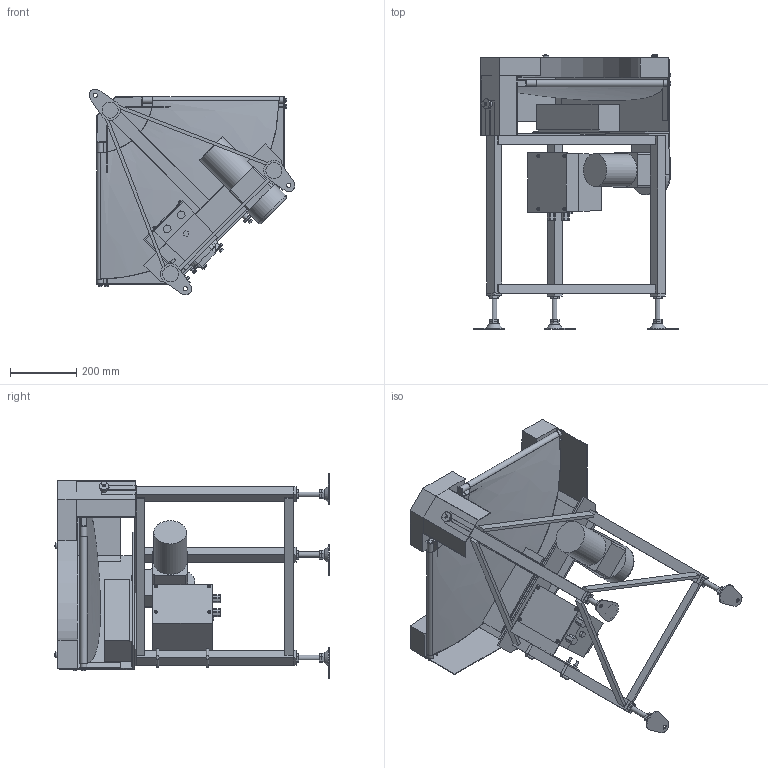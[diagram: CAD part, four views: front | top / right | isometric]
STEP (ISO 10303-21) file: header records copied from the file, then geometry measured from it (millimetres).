
FILE_DESCRIPTION (( 'STEP AP214' ), '1' );
FILE_NAME ('GFBC90-UD300-R.STEP', '2022-09-08T09:08:40', ( '' ), ( '' ), 'SwSTEP 2.0', 'SolidWorks 2017', '' );
FILE_SCHEMA (( 'AUTOMOTIVE_DESIGN' ));
Length unit declared in the file: millimetre
Products named in the file (1): GFBC90-UD300-R
Bounding box: 620.18 x 827.92 x 620.18 mm (x, y, z)
Volume: 20514851.6 mm3; surface area: 3385732.9 mm2
Topology: 54 solids, 55 shells, 966 faces, 2185 edges, 1408 vertices
Faces by surface type: plane 684, cylinder 187, bspline 49, cone 38, torus 6, sphere 2
Full cylindrical faces by diameter (mm): 4 x4, 4.2 x2, 4.5 x1, 5 x4, 5.9 x4, 6 x9, 7 x1, 7.6 x4, 8 x15, 9 x6, 10 x2, 12 x1, 12.2 x2, 12.5 x7, 13 x7, 15 x4, 16 x9, 18 x2, 18.4 x1, 20 x7, 21 x1, 25 x1, 30 x6, 99 x1
Entity records: 44790 total; most frequent: CARTESIAN_POINT 12748, DIRECTION 4110, ORIENTED_EDGE 4064, EDGE_CURVE 2032, VECTOR 1388, LINE 1388, VERTEX_POINT 1379, AXIS2_PLACEMENT_3D 1361
